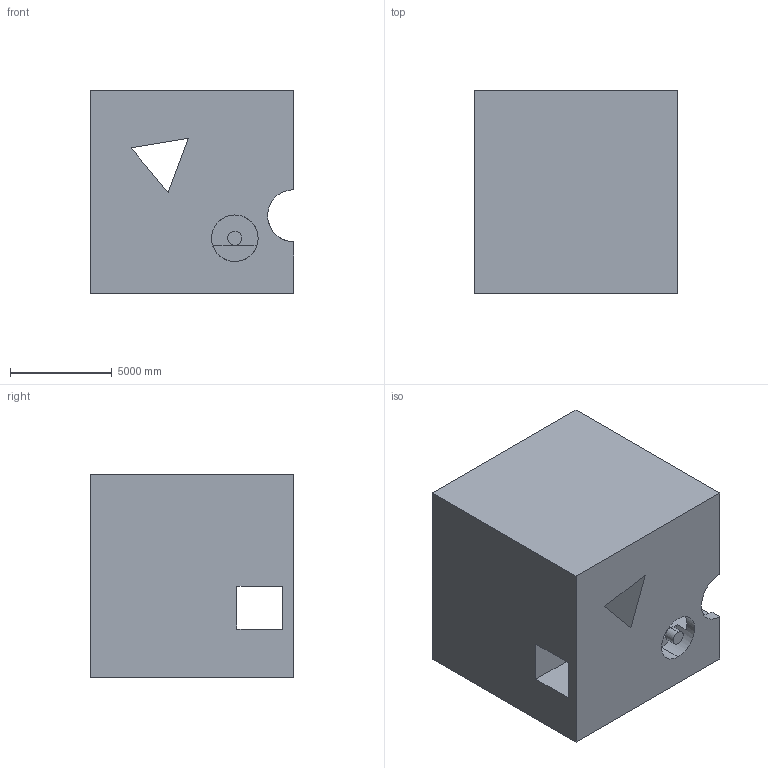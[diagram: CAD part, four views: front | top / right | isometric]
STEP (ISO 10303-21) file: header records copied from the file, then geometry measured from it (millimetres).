
FILE_DESCRIPTION (( 'STEP AP203' ), '1' );
FILE_NAME ('424.STEP', '2022-07-29T11:13:31', ( 'user' ), ( '' ), 'SwSTEP 2.0', 'SolidWorks 2021', '' );
FILE_SCHEMA (( 'CONFIG_CONTROL_DESIGN' ));
Length unit declared in the file: centimetre
Products named in the file (1): 424
Bounding box: 10000 x 10000 x 10000 mm (x, y, z)
Volume: 885947611984.5 mm3; surface area: 770374945.8 mm2
Topology: 1 solids, 1 shells, 29 faces, 84 edges, 56 vertices
Faces by surface type: plane 24, cylinder 5
Entity records: 1043 total; most frequent: CARTESIAN_POINT 170, ORIENTED_EDGE 168, DIRECTION 160, EDGE_CURVE 84, LINE 68, VECTOR 68, VERTEX_POINT 56, AXIS2_PLACEMENT_3D 46
